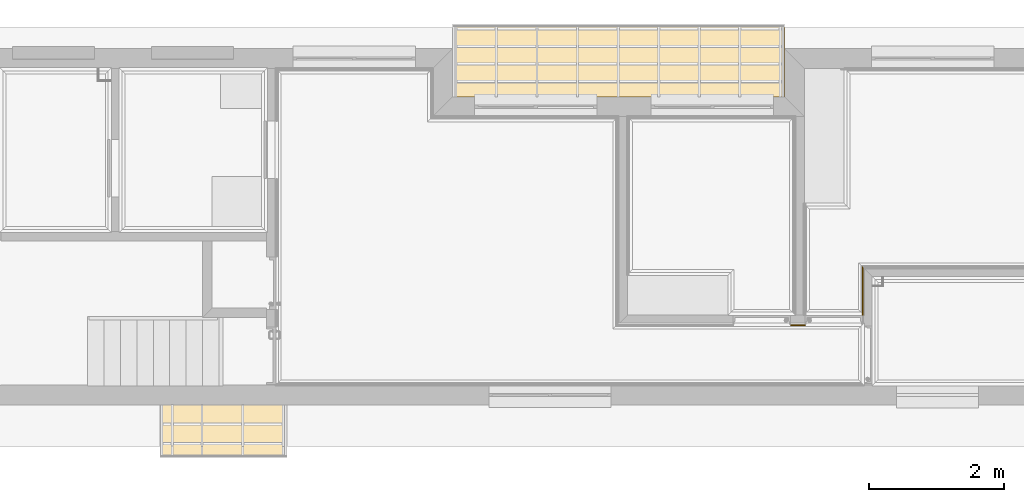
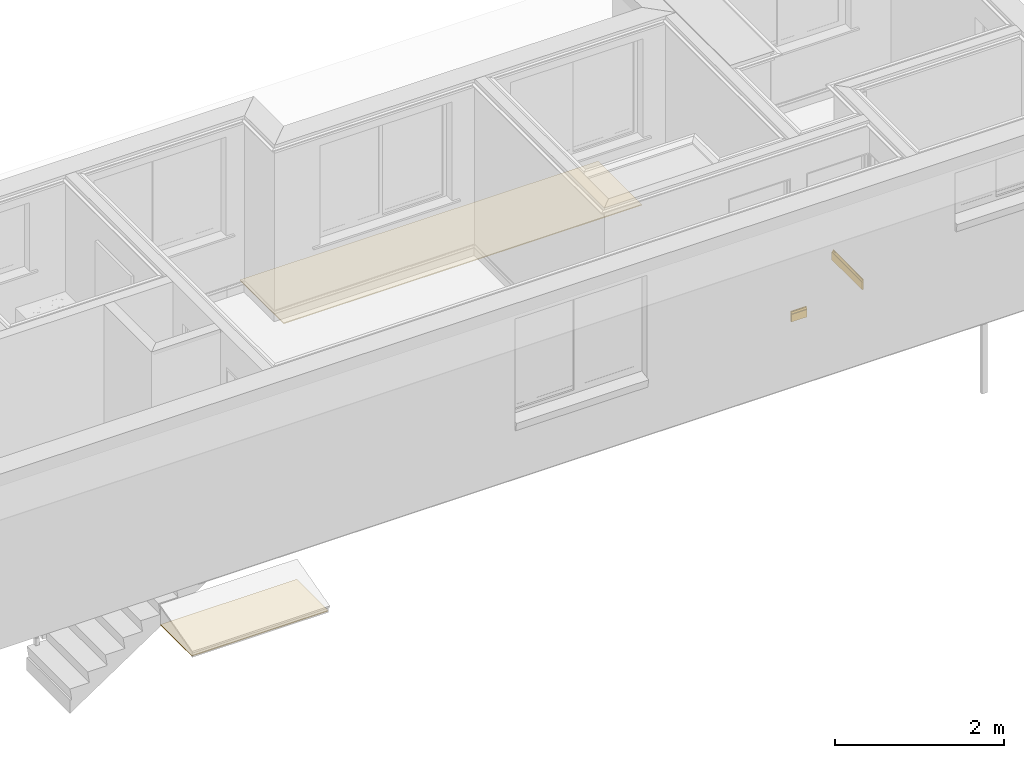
# One storey, part 9 of 18: 4 coverings.
"""IFC2X3 building model written with IfcOpenShell, lengths in millimetres."""

from ifc_helpers import new_model, entity, si_unit, converted_unit, money_unit, direction, frame, origin_with_axes, place, context, subcontext, project, spatial, faceted_brep, source, transform, mapped, material, type_object, element, save


model = new_model("IFC2X3")

# Units and contexts
model_context = context("Model", 3, precision=1e-05, world=origin_with_axes(), true_north=direction((0.0, 1.0)))
body_context = subcontext(model_context, "Body", "Model", "MODEL_VIEW")
ifc_project = project(units=[si_unit("LENGTHUNIT", "METRE", prefix="MILLI"), si_unit("AREAUNIT", "SQUARE_METRE"), si_unit("VOLUMEUNIT", "CUBIC_METRE"), converted_unit("PLANEANGLEUNIT", "DEGREE", entity("IfcPlaneAngleMeasure", 0.0174532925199), si_unit("PLANEANGLEUNIT", "RADIAN"), dimensions=[0, 0, 0, 0, 0, 0, 0]), si_unit("SOLIDANGLEUNIT", "STERADIAN"), money_unit("AUD"), si_unit("TIMEUNIT", "SECOND"), si_unit("MASSUNIT", "GRAM"), si_unit("THERMODYNAMICTEMPERATUREUNIT", "DEGREE_CELSIUS"), si_unit("LUMINOUSINTENSITYUNIT", "LUMEN")], contexts=[model_context])

# Site, building, storey
site_placement = place(None, origin_with_axes())
site = spatial("IfcSite", under=ifc_project, at=site_placement, Name="Lot 1. East Hills", CompositionType="ELEMENT")
building_placement = place(site_placement, origin_with_axes())
building = spatial("IfcBuilding", under=site, at=building_placement, Name="Proposed Units 7 & 8", CompositionType="ELEMENT")
storey_placement = place(building_placement, frame((0.0, 0.0, 5859.0), z_axis=(0.0, 0.0, 1.0), x_axis=(1.0, 0.0, 0.0)))
storey = spatial("IfcBuildingStorey", under=building, at=storey_placement, Name="Level 1", CompositionType="ELEMENT", Elevation=5859.0)

# Coverings
ifc_material = material(Name="50 %")
covering_type_1 = type_object("IfcCoveringType", Name="Molding Straight 12", PredefinedType="NOTDEFINED")
shared_shape_1 = source(origin_with_axes(), body_context, "Body", "Brep", [
    faceted_brep([(215.000000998, -19.0298507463, -150.0), (215.000000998, -19.0298507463, -40.2985074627), (0.0, -19.0298507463, -40.2985074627), (0.0, -19.0298507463, -150.0), (215.000000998, 0.0, -150.0), (215.000000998, 0.0, -120.895522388), (215.000000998, -2.23880597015, -118.656716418), (215.000000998, -2.23880597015, -24.6268656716), (215.000000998, 0.0, -22.3880597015), (215.000000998, 0.0, 0.0), (215.000000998, -6.71641791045, 0.0), (215.000000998, -8.9552238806, -4.4776119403), (215.000000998, -9.19197067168, -5.17383533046), (215.000000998, -9.23315907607, -5.90805571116), (215.000000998, -9.07576633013, -6.62638959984), (215.000000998, -8.73134328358, -7.27611940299), (215.000000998, -8.1712130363, -8.36014699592), (215.000000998, -7.94776119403, -9.55970149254), (215.000000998, -8.2485368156, -12.6066468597), (215.000000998, -9.35788915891, -15.4603601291), (215.000000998, -11.1940298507, -17.9104477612), (215.000000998, -15.6211975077, -24.0923863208), (215.000000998, -17.9104477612, -31.3432835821), (215.000000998, -17.9257206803, -33.6342255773), (215.000000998, -17.3014780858, -35.8385326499), (215.000000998, -16.087254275, -37.7812907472), (215.000000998, -14.3793991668, -39.3083399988), (215.000000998, -12.3134328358, -40.2985074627), (0.0, -12.3134328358, -40.2985074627), (0.0, -14.3793991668, -39.3083399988), (0.0, -16.087254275, -37.7812907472), (0.0, -17.3014780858, -35.8385326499), (0.0, -17.9257206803, -33.6342255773), (0.0, -17.9104477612, -31.3432835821), (0.0, -15.6211975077, -24.0923863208), (0.0, -11.1940298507, -17.9104477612), (0.0, -9.35788915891, -15.4603601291), (0.0, -8.2485368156, -12.6066468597), (0.0, -7.94776119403, -9.55970149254), (0.0, -8.1712130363, -8.36014699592), (0.0, -8.73134328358, -7.27611940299), (0.0, -9.07576633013, -6.62638959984), (0.0, -9.23315907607, -5.90805571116), (0.0, -9.19197067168, -5.17383533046), (0.0, -8.9552238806, -4.4776119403), (0.0, -6.71641791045, 0.0), (0.0, 0.0, 0.0), (0.0, 0.0, -22.3880597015), (0.0, -2.23880597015, -24.6268656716), (0.0, -2.23880597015, -118.656716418), (0.0, 0.0, -120.895522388), (0.0, 0.0, -150.0)], [[[0, 1, 2, 3]], [[0, 4, 5, 6, 7, 8, 9, 10, 11, 12, 13, 14, 15, 16, 17, 18, 19, 20, 21, 22, 23, 24, 25, 26, 27, 1]], [[1, 27, 28, 2]], [[3, 2, 28, 29, 30, 31, 32, 33, 34, 35, 36, 37, 38, 39, 40, 41, 42, 43, 44, 45, 46, 47, 48, 49, 50, 51]], [[4, 0, 3, 51]], [[5, 4, 51, 50]], [[6, 5, 50, 49]], [[7, 6, 49, 48]], [[8, 7, 48, 47]], [[9, 8, 47, 46]], [[10, 9, 46, 45]], [[11, 10, 45, 44]], [[12, 11, 44, 43]], [[13, 12, 43, 42]], [[14, 13, 42, 41]], [[15, 14, 41, 40]], [[16, 15, 40, 39]], [[17, 16, 39, 38]], [[18, 17, 38, 37]], [[19, 18, 37, 36]], [[20, 19, 36, 35]], [[21, 20, 35, 34]], [[22, 21, 34, 33]], [[23, 22, 33, 32]], [[24, 23, 32, 31]], [[25, 24, 31, 30]], [[26, 25, 30, 29]], [[27, 26, 29, 28]]]),
])
covering_1_placement = place(storey_placement, frame((11972.5000001, 1183.00000045, 150.0), z_axis=(0.0, 0.0, 1.0), x_axis=(1.0, 0.0, 0.0)))
element("IfcCovering", 1, at=covering_1_placement, inside=storey, type_object=covering_type_1, material=ifc_material, Name="Sk_01 - Molding Straight 12 - object -", PredefinedType="NOTDEFINED", context=body_context, shape_type="MappedRepresentation", body=[
    mapped(shared_shape_1, transform((0.0, 0.0, 0.0))),
])
shared_shape_2 = source(origin_with_axes(), body_context, "Body", "Brep", [
    faceted_brep([(700.0104952, -19.0298507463, -150.0), (700.0104952, -19.0298507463, -40.2985074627), (-19.0298507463, -19.0298507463, -40.2985074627), (-19.0298507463, -19.0298507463, -150.0), (699.999998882, 0.0, -150.0), (699.999998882, 0.0, -120.895522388), (700.001233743, -2.23880597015, -118.656716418), (700.001233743, -2.23880597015, -24.6268656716), (699.999998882, 0.0, -22.3880597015), (699.999998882, 0.0, 0.0), (700.003703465, -6.71641791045, 0.0), (700.004938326, -8.9552238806, -4.4776119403), (700.005068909, -9.19197067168, -5.17383533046), (700.005091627, -9.23315907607, -5.90805571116), (700.005004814, -9.07576633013, -6.62638959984), (700.00481484, -8.73134328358, -7.27611940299), (700.004505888, -8.1712130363, -8.36014699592), (700.004382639, -7.94776119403, -9.55970149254), (700.004548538, -8.2485368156, -12.6066468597), (700.005160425, -9.35788915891, -15.4603601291), (700.006173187, -11.1940298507, -17.9104477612), (700.008615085, -15.6211975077, -24.0923863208), (700.00987777, -17.9104477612, -31.3432835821), (700.009886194, -17.9257206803, -33.6342255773), (700.00954188, -17.3014780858, -35.8385326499), (700.008872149, -16.087254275, -37.7812907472), (700.007930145, -14.3793991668, -39.3083399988), (700.006790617, -12.3134328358, -40.2985074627), (-12.3134328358, -12.3134328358, -40.2985074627), (-14.3793991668, -14.3793991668, -39.3083399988), (-16.087254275, -16.087254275, -37.7812907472), (-17.3014780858, -17.3014780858, -35.8385326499), (-17.9257206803, -17.9257206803, -33.6342255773), (-17.9104477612, -17.9104477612, -31.3432835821), (-15.6211975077, -15.6211975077, -24.0923863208), (-11.1940298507, -11.1940298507, -17.9104477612), (-9.35788915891, -9.35788915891, -15.4603601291), (-8.2485368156, -8.2485368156, -12.6066468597), (-7.94776119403, -7.94776119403, -9.55970149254), (-8.1712130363, -8.1712130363, -8.36014699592), (-8.73134328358, -8.73134328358, -7.27611940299), (-9.07576633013, -9.07576633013, -6.62638959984), (-9.23315907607, -9.23315907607, -5.90805571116), (-9.19197067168, -9.19197067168, -5.17383533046), (-8.9552238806, -8.9552238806, -4.4776119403), (-6.71641791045, -6.71641791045, 0.0), (0.0, 0.0, 0.0), (0.0, 0.0, -22.3880597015), (-2.23880597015, -2.23880597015, -24.6268656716), (-2.23880597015, -2.23880597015, -118.656716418), (0.0, 0.0, -120.895522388), (0.0, 0.0, -150.0)], [[[0, 1, 2, 3]], [[0, 4, 5, 6, 7, 8, 9, 10, 11, 12, 13, 14, 15, 16, 17, 18, 19, 20, 21, 22, 23, 24, 25, 26, 27, 1]], [[1, 27, 28, 2]], [[3, 2, 28, 29, 30, 31, 32, 33, 34, 35, 36, 37, 38, 39, 40, 41, 42, 43, 44, 45, 46, 47, 48, 49, 50, 51]], [[4, 0, 3, 51]], [[5, 4, 51, 50]], [[6, 5, 50, 49]], [[7, 6, 49, 48]], [[8, 7, 48, 47]], [[9, 8, 47, 46]], [[10, 9, 46, 45]], [[11, 10, 45, 44]], [[12, 11, 44, 43]], [[13, 12, 43, 42]], [[14, 13, 42, 41]], [[15, 14, 41, 40]], [[16, 15, 40, 39]], [[17, 16, 39, 38]], [[18, 17, 38, 37]], [[19, 18, 37, 36]], [[20, 19, 36, 35]], [[21, 20, 35, 34]], [[22, 21, 34, 33]], [[23, 22, 33, 32]], [[24, 23, 32, 31]], [[25, 24, 31, 30]], [[26, 25, 30, 29]], [[27, 26, 29, 28]]]),
])
covering_2_placement = place(storey_placement, frame((13050.0000006, 2022.99999873, 150.0), z_axis=(0.0, 0.0, 1.0), x_axis=(0.0, -1.0, 0.0)))
element("IfcCovering", 2, at=covering_2_placement, inside=storey, type_object=covering_type_1, material=ifc_material, Name="Sk_01 - Molding Straight 12 - object -", PredefinedType="NOTDEFINED", context=body_context, shape_type="MappedRepresentation", body=[
    mapped(shared_shape_2, transform((0.0, 0.0, 0.0))),
])
covering_type_2 = type_object("IfcCoveringType", Name="EAVES FC LINNING L1", PredefinedType="NOTDEFINED")
shared_shape_3 = source(origin_with_axes(), body_context, "Body", "Brep", [
    faceted_brep([(0.0, 0.0, 0.0), (4905.0, 0.0, 0.0), (4905.0, 0.0, 13.0), (0.0, 0.0, 13.0), (0.0, 1035.73573739, 0.0), (4905.0, 1035.73573739, 0.0), (4905.0, 1035.73573739, 13.0), (0.0, 1035.73573739, 13.0)], [[[0, 1, 2, 3]], [[0, 4, 5, 1]], [[1, 5, 6, 2]], [[3, 2, 6, 7]], [[4, 0, 3, 7]], [[5, 4, 7, 6]]]),
])
covering_3_placement = place(storey_placement, frame((6975.0, 4553.0, -331.797689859), z_axis=(0.0, 0.0, 1.0), x_axis=(1.0, 0.0, 0.0)))
element("IfcCovering", 3, at=covering_3_placement, inside=storey, type_object=covering_type_2, material=ifc_material, Name="EAVES COVERING  - EAVES FC LINNING L1 - object -", PredefinedType="CEILING", context=body_context, shape_type="MappedRepresentation", body=[
    mapped(shared_shape_3, transform((0.0, 0.0, 0.0))),
])
shared_shape_4 = source(origin_with_axes(), body_context, "Body", "Brep", [
    faceted_brep([(0.0, 0.0, 0.0), (0.0, 0.0, 13.0), (-1865.0, 0.0, 13.0), (-1865.0, 0.0, 0.0), (0.0, 745.919410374, 0.0), (0.0, 745.919410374, 13.0), (-1865.0, 745.919410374, 13.0), (-1865.0, 745.919410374, 0.0)], [[[0, 1, 2, 3]], [[4, 5, 1, 0]], [[1, 5, 6, 2]], [[3, 2, 6, 7]], [[0, 3, 7, 4]], [[7, 6, 5, 4]]]),
])
covering_4_placement = place(storey_placement, frame((2657.41720971, -5.50556368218, -417.797689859), z_axis=(0.0, 0.0, 1.0), x_axis=(-1.0, 0.0, 0.0)))
element("IfcCovering", 4, at=covering_4_placement, inside=storey, type_object=covering_type_2, material=ifc_material, Name="EAVES COVERING  - EAVES FC LINNING L1 - object -", PredefinedType="CEILING", context=body_context, shape_type="MappedRepresentation", body=[
    mapped(shared_shape_4, transform((0.0, 0.0, 0.0))),
])

save(model, "model.ifc")
